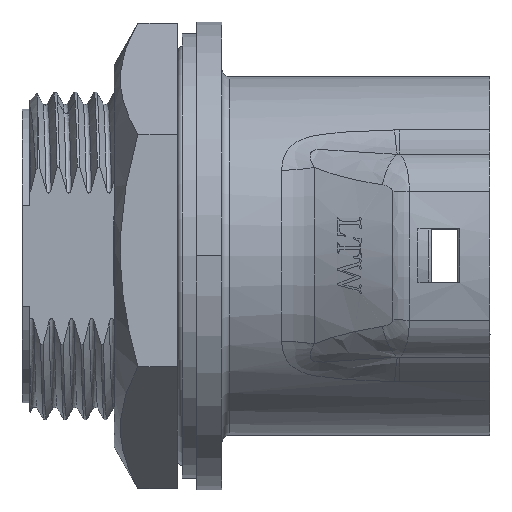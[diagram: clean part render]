
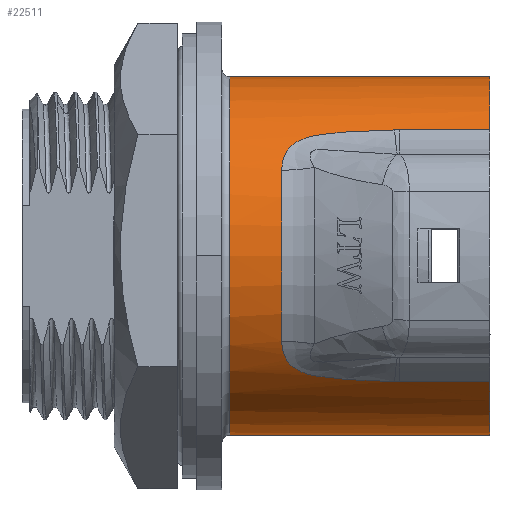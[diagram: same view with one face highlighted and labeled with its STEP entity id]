
A CAD part, top view. The second image highlights one B-rep face of the part: STEP entity #22511.
In plain terms, the highlighted cylindrical face has radius 11.3 mm (diameter 22.6 mm), a partial arc.
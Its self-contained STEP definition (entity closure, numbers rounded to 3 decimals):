
#729=CARTESIAN_POINT('',(29.5,0.,0.));
#730=DIRECTION('',(-1.,0.,0.));
#731=DIRECTION('',(0.,0.702,0.712));
#732=AXIS2_PLACEMENT_3D('',#729,#730,#731);
#774=CARTESIAN_POINT('',(29.5,0.,0.));
#775=DIRECTION('',(-1.,0.,0.));
#776=DIRECTION('',(0.,-1.,0.));
#777=AXIS2_PLACEMENT_3D('',#774,#775,#776);
#895=CARTESIAN_POINT('',(13.1,0.,0.));
#896=DIRECTION('',(-1.,0.,0.));
#897=DIRECTION('',(0.,-1.,0.));
#898=AXIS2_PLACEMENT_3D('',#895,#896,#897);
#900=DIRECTION('',(1.,0.,0.));
#901=VECTOR('',#900,16.4);
#902=CARTESIAN_POINT('',(13.1,11.3,0.));
#903=LINE('',#902,#901);
#904=CARTESIAN_POINT('',(16.366,-5.391,9.931));
#905=CARTESIAN_POINT('',(16.366,-5.521,9.86));
#906=CARTESIAN_POINT('',(16.384,-5.768,9.72));
#907=CARTESIAN_POINT('',(16.457,-6.098,9.516));
#908=CARTESIAN_POINT('',(16.571,-6.386,9.324));
#909=CARTESIAN_POINT('',(16.717,-6.634,9.149));
#910=CARTESIAN_POINT('',(16.895,-6.847,8.99));
#911=CARTESIAN_POINT('',(17.105,-7.032,8.846));
#912=CARTESIAN_POINT('',(17.35,-7.193,8.715));
#913=CARTESIAN_POINT('',(17.644,-7.337,8.595));
#914=CARTESIAN_POINT('',(18.009,-7.465,8.484));
#915=CARTESIAN_POINT('',(18.446,-7.572,8.388));
#916=CARTESIAN_POINT('',(18.952,-7.659,8.308));
#917=CARTESIAN_POINT('',(19.526,-7.729,8.243));
#918=CARTESIAN_POINT('',(20.168,-7.786,8.19));
#919=CARTESIAN_POINT('',(20.879,-7.832,8.145));
#920=CARTESIAN_POINT('',(21.663,-7.871,8.108));
#921=CARTESIAN_POINT('',(22.523,-7.904,8.075));
#922=CARTESIAN_POINT('',(23.154,-7.924,8.056));
#923=CARTESIAN_POINT('',(23.484,-7.933,8.048));
#940=DIRECTION('',(1.,0.,0.));
#941=VECTOR('',#940,16.4);
#942=CARTESIAN_POINT('',(13.1,-11.3,0.));
#943=LINE('',#942,#941);
#16133=DIRECTION('',(1.,0.,0.));
#16134=VECTOR('',#16133,5.686);
#16135=CARTESIAN_POINT('',(23.814,7.937,8.043));
#16136=LINE('',#16135,#16134);
#16250=CARTESIAN_POINT('',(23.814,-7.937,
8.043));
#16251=CARTESIAN_POINT('',(23.777,-7.937,
8.043));
#16252=CARTESIAN_POINT('',(23.704,-7.937,
8.043));
#16253=CARTESIAN_POINT('',(23.594,-7.935,
8.045));
#16254=CARTESIAN_POINT('',(23.52,-7.934,
8.047));
#16255=CARTESIAN_POINT('',(23.484,-7.933,
8.048));
#16257=DIRECTION('',(-1.,0.,0.));
#16258=VECTOR('',#16257,5.686);
#16259=CARTESIAN_POINT('',(29.5,-7.937,8.043));
#16260=LINE('',#16259,#16258);
#16816=CARTESIAN_POINT('',(16.366,0.,0.));
#16817=DIRECTION('',(-1.,0.,0.));
#16818=DIRECTION('',(0.,-0.477,0.879));
#16819=AXIS2_PLACEMENT_3D('',#16816,#16817,#16818);
#16826=CARTESIAN_POINT('',(16.366,5.391,9.931));
#16827=CARTESIAN_POINT('',(16.366,5.522,9.86));
#16828=CARTESIAN_POINT('',(16.384,5.769,9.719));
#16829=CARTESIAN_POINT('',(16.457,6.097,9.516));
#16830=CARTESIAN_POINT('',(16.569,6.383,9.326));
#16831=CARTESIAN_POINT('',(16.714,6.629,9.153));
#16832=CARTESIAN_POINT('',(16.891,6.842,8.994));
#16833=CARTESIAN_POINT('',(17.098,7.027,8.85));
#16834=CARTESIAN_POINT('',(17.342,7.189,8.719));
#16835=CARTESIAN_POINT('',(17.636,7.333,8.598));
#16836=CARTESIAN_POINT('',(18.,7.462,8.486));
#16837=CARTESIAN_POINT('',(18.435,7.57,8.39));
#16838=CARTESIAN_POINT('',(18.942,7.658,8.31));
#16839=CARTESIAN_POINT('',(19.517,7.728,8.244));
#16840=CARTESIAN_POINT('',(20.161,7.785,8.19));
#16841=CARTESIAN_POINT('',(20.874,7.832,8.146));
#16842=CARTESIAN_POINT('',(21.659,7.871,8.108));
#16843=CARTESIAN_POINT('',(22.521,7.904,8.075));
#16844=CARTESIAN_POINT('',(23.154,7.924,8.056));
#16845=CARTESIAN_POINT('',(23.484,7.933,8.048));
#16906=CARTESIAN_POINT('',(23.484,7.933,8.048));
#16907=CARTESIAN_POINT('',(23.52,7.934,8.047));
#16908=CARTESIAN_POINT('',(23.594,7.935,8.045));
#16909=CARTESIAN_POINT('',(23.704,7.937,8.043));
#16910=CARTESIAN_POINT('',(23.778,7.937,8.043));
#16911=CARTESIAN_POINT('',(23.814,7.937,8.043));
#18528=CARTESIAN_POINT('',(29.5,7.937,8.043));
#18529=CARTESIAN_POINT('',(29.5,11.3,0.));
#18530=VERTEX_POINT('',#18528);
#18531=VERTEX_POINT('',#18529);
#18546=CARTESIAN_POINT('',(29.5,-11.3,0.));
#18547=VERTEX_POINT('',#18546);
#18548=CARTESIAN_POINT('',(29.5,-7.937,8.043));
#18549=VERTEX_POINT('',#18548);
#18625=CARTESIAN_POINT('',(23.814,-7.937,
8.043));
#18626=VERTEX_POINT('',#18625);
#18627=VERTEX_POINT('',#16255);
#18628=CARTESIAN_POINT('',(23.814,7.937,8.043));
#18629=VERTEX_POINT('',#18628);
#18630=VERTEX_POINT('',#16906);
#18631=VERTEX_POINT('',#16826);
#18632=CARTESIAN_POINT('',(16.366,-5.391,
9.931));
#18633=VERTEX_POINT('',#18632);
#19459=CARTESIAN_POINT('',(13.1,11.3,0.));
#19460=CARTESIAN_POINT('',(13.1,-11.3,0.));
#19461=VERTEX_POINT('',#19459);
#19462=VERTEX_POINT('',#19460);
#22482=CARTESIAN_POINT('',(30.345,0.,0.));
#22483=DIRECTION('',(-1.,0.,0.));
#22484=DIRECTION('',(0.,1.,0.));
#22485=AXIS2_PLACEMENT_3D('',#22482,#22483,#22484);
#22486=CYLINDRICAL_SURFACE('',#22485,11.3);
#22488=ORIENTED_EDGE('',*,*,#22487,.T.);
#22490=ORIENTED_EDGE('',*,*,#22489,.T.);
#22491=ORIENTED_EDGE('',*,*,#22420,.F.);
#22493=ORIENTED_EDGE('',*,*,#22492,.F.);
#22495=ORIENTED_EDGE('',*,*,#22494,.F.);
#22497=ORIENTED_EDGE('',*,*,#22496,.F.);
#22499=ORIENTED_EDGE('',*,*,#22498,.F.);
#22501=ORIENTED_EDGE('',*,*,#22500,.T.);
#22503=ORIENTED_EDGE('',*,*,#22502,.F.);
#22505=ORIENTED_EDGE('',*,*,#22504,.F.);
#22506=ORIENTED_EDGE('',*,*,#22438,.F.);
#22508=ORIENTED_EDGE('',*,*,#22507,.F.);
#22509=EDGE_LOOP('',(#22488,#22490,#22491,#22493,#22495,#22497,#22499,#22501,
#22503,#22505,#22506,#22508));
#22510=FACE_OUTER_BOUND('',#22509,.F.);
#22511=ADVANCED_FACE('',(#22510),#22486,.T.);
#733=CIRCLE('',#732,11.3);
#778=CIRCLE('',#777,11.3);
#899=CIRCLE('',#898,11.3);
#924=B_SPLINE_CURVE_WITH_KNOTS('',3,(#904,#905,#906,#907,#908,#909,#910,#911,
#912,#913,#914,#915,#916,#917,#918,#919,#920,#921,#922,#923),.UNSPECIFIED.,.F.,
.F.,(4,1,1,1,1,1,1,1,1,1,1,1,1,1,1,1,1,4),(0.,0.059,
0.118,0.176,0.235,0.294,
0.353,0.412,0.471,0.529,
0.588,0.647,0.706,0.765,
0.824,0.882,0.941,1.),.UNSPECIFIED.);
#16256=B_SPLINE_CURVE_WITH_KNOTS('',3,(#16250,#16251,#16252,#16253,#16254,
#16255),.UNSPECIFIED.,.F.,.F.,(4,1,1,4),(0.,0.333,
0.667,1.),.UNSPECIFIED.);
#16820=CIRCLE('',#16819,11.3);
#16846=B_SPLINE_CURVE_WITH_KNOTS('',3,(#16826,#16827,#16828,#16829,#16830,
#16831,#16832,#16833,#16834,#16835,#16836,#16837,#16838,#16839,#16840,#16841,
#16842,#16843,#16844,#16845),.UNSPECIFIED.,.F.,.F.,(4,1,1,1,1,1,1,1,1,1,1,1,1,1,
1,1,1,4),(0.,0.059,0.118,0.176,
0.235,0.294,0.353,0.412,
0.471,0.529,0.588,0.647,
0.706,0.765,0.824,0.882,
0.941,1.),.UNSPECIFIED.);
#16912=B_SPLINE_CURVE_WITH_KNOTS('',3,(#16906,#16907,#16908,#16909,#16910,
#16911),.UNSPECIFIED.,.F.,.F.,(4,1,1,4),(0.,0.333,
0.667,1.),.UNSPECIFIED.);
#22420=EDGE_CURVE('',#18530,#18531,#733,.T.);
#22438=EDGE_CURVE('',#18547,#18549,#778,.T.);
#22487=EDGE_CURVE('',#19462,#19461,#899,.T.);
#22489=EDGE_CURVE('',#19461,#18531,#903,.T.);
#22492=EDGE_CURVE('',#18629,#18530,#16136,.T.);
#22494=EDGE_CURVE('',#18630,#18629,#16912,.T.);
#22496=EDGE_CURVE('',#18631,#18630,#16846,.T.);
#22498=EDGE_CURVE('',#18633,#18631,#16820,.T.);
#22500=EDGE_CURVE('',#18633,#18627,#924,.T.);
#22502=EDGE_CURVE('',#18626,#18627,#16256,.T.);
#22504=EDGE_CURVE('',#18549,#18626,#16260,.T.);
#22507=EDGE_CURVE('',#19462,#18547,#943,.T.);
